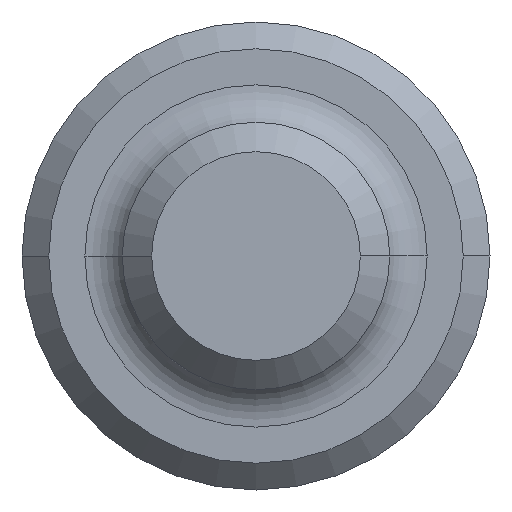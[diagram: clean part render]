
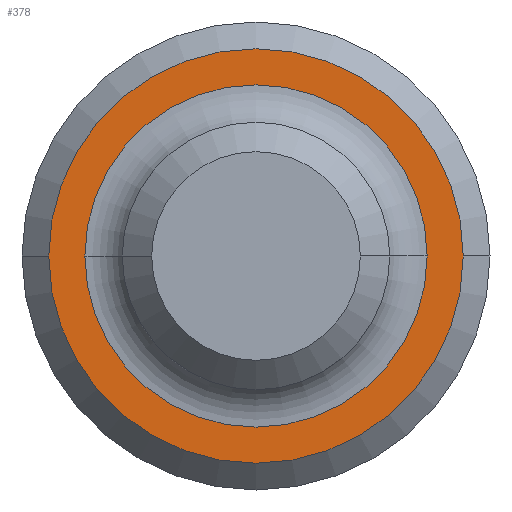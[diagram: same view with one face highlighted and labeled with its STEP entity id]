
A CAD part, left-side view. The second image highlights one B-rep face of the part: STEP entity #378.
In plain terms, the highlighted planar face has unit normal (-1, 0, 0).
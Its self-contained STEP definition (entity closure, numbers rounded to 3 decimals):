
#2 = CIRCLE ( 'NONE', #389, 9.842 ) ;
#24 = EDGE_LOOP ( 'NONE', ( #250, #66 ) ) ;
#41 = AXIS2_PLACEMENT_3D ( 'NONE', #245, #125, #359 ) ;
#51 = EDGE_CURVE ( 'NONE', #534, #373, #520, .T. ) ;
#66 = ORIENTED_EDGE ( 'NONE', *, *, #550, .F. ) ;
#79 = DIRECTION ( 'NONE',  ( 0., 1., 0. ) ) ;
#100 = DIRECTION ( 'NONE',  ( 0., 1., 0. ) ) ;
#111 = DIRECTION ( 'NONE',  ( 1., 0., 0. ) ) ;
#119 = CARTESIAN_POINT ( 'NONE',  ( 2.997, 0., 0. ) ) ;
#122 = CARTESIAN_POINT ( 'NONE',  ( 2.997, 0., 0. ) ) ;
#125 = DIRECTION ( 'NONE',  ( 1., 0., 0. ) ) ;
#139 = CARTESIAN_POINT ( 'NONE',  ( 2.997, -9.842, 0. ) ) ;
#142 = FACE_BOUND ( 'NONE', #474, .T. ) ;
#200 = CIRCLE ( 'NONE', #465, 8.128 ) ;
#212 = CARTESIAN_POINT ( 'NONE',  ( 2.997, 0., 0. ) ) ;
#216 = ORIENTED_EDGE ( 'NONE', *, *, #51, .T. ) ;
#233 = DIRECTION ( 'NONE',  ( 1., 0., 0. ) ) ;
#245 = CARTESIAN_POINT ( 'NONE',  ( 2.997, 0., 0. ) ) ;
#250 = ORIENTED_EDGE ( 'NONE', *, *, #415, .F. ) ;
#276 = DIRECTION ( 'NONE',  ( 0., 1., 0. ) ) ;
#283 = DIRECTION ( 'NONE',  ( 1., 0., 0. ) ) ;
#286 = AXIS2_PLACEMENT_3D ( 'NONE', #122, #283, #569 ) ;
#317 = CARTESIAN_POINT ( 'NONE',  ( 2.997, 9.842, 0. ) ) ;
#340 = EDGE_CURVE ( 'NONE', #373, #534, #200, .T. ) ;
#352 = CIRCLE ( 'NONE', #41, 9.842 ) ;
#359 = DIRECTION ( 'NONE',  ( 0., 1., 0. ) ) ;
#372 = FACE_OUTER_BOUND ( 'NONE', #24, .T. ) ;
#373 = VERTEX_POINT ( 'NONE', #473 ) ;
#378 = ADVANCED_FACE ( 'NONE', ( #372, #142 ), #501, .F. ) ;
#379 = CARTESIAN_POINT ( 'NONE',  ( 2.997, -8.128, 0. ) ) ;
#389 = AXIS2_PLACEMENT_3D ( 'NONE', #212, #233, #276 ) ;
#415 = EDGE_CURVE ( 'NONE', #541, #444, #2, .T. ) ;
#444 = VERTEX_POINT ( 'NONE', #139 ) ;
#452 = ORIENTED_EDGE ( 'NONE', *, *, #340, .T. ) ;
#465 = AXIS2_PLACEMENT_3D ( 'NONE', #576, #111, #79 ) ;
#473 = CARTESIAN_POINT ( 'NONE',  ( 2.997, 8.128, 0. ) ) ;
#474 = EDGE_LOOP ( 'NONE', ( #452, #216 ) ) ;
#483 = DIRECTION ( 'NONE',  ( 1., 0., 0. ) ) ;
#501 = PLANE ( 'NONE',  #506 ) ;
#506 = AXIS2_PLACEMENT_3D ( 'NONE', #119, #483, #100 ) ;
#520 = CIRCLE ( 'NONE', #286, 8.128 ) ;
#534 = VERTEX_POINT ( 'NONE', #379 ) ;
#541 = VERTEX_POINT ( 'NONE', #317 ) ;
#550 = EDGE_CURVE ( 'NONE', #444, #541, #352, .T. ) ;
#569 = DIRECTION ( 'NONE',  ( 0., 1., 0. ) ) ;
#576 = CARTESIAN_POINT ( 'NONE',  ( 2.997, 0., 0. ) ) ;
